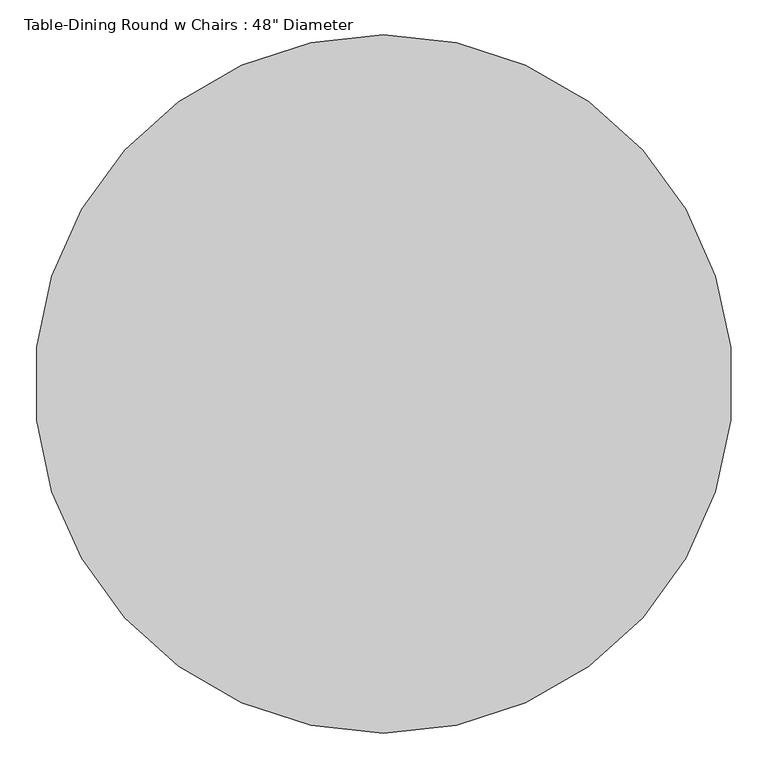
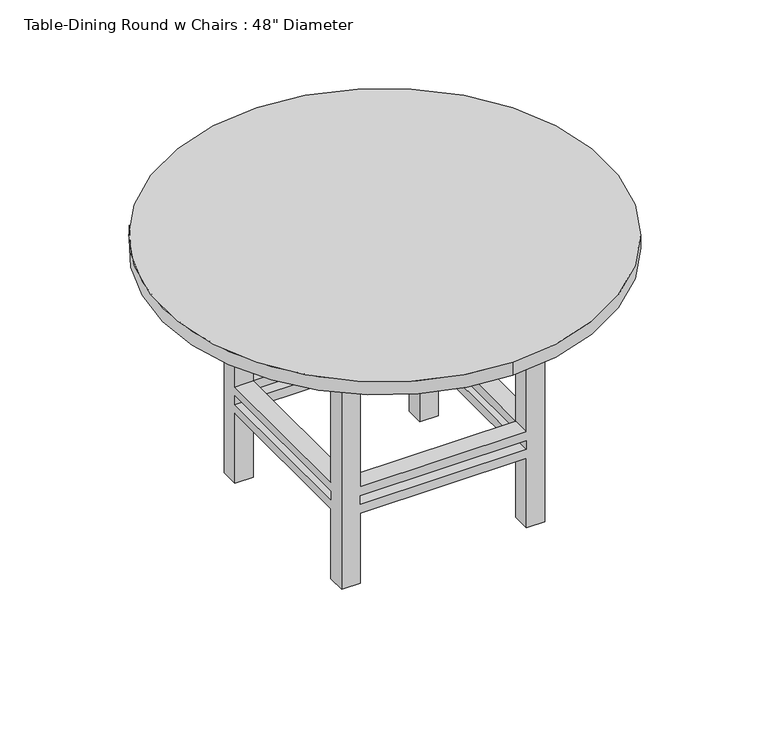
"""IFC4 building model written with IfcOpenShell, lengths in millimetres: furniture geometry."""

import ifcopenshell
import ifcopenshell.guid

model = None  # the IFC model being written
_history = None  # IfcOwnerHistory: only IFC2X3 demands one
_inside = {}  # id of a spatial element -> (the spatial element, [elements in it])
_under = {}  # id of a project, library or spatial element -> (it, [spatial elements below it])
_declared = {}  # id of a project -> (the project, [libraries it declares])
_typed = {}  # id of a type object -> (the type object, [elements of that type])
_made_of = {}  # id of a material, layer set ... -> (it, [elements and type objects made of it])


def new_model(schema):
    """Start an empty IFC model of exactly this schema.

    Asked for "IFC4X3", IfcOpenShell would pick the latest addendum, in which some entities
    have other attributes; the version numbers below select the first issue.
    IFC2X3 requires an IfcOwnerHistory on every rooted entity: one is made here for all.
    """
    global model, _history
    if schema == "IFC4X3":
        model = ifcopenshell.file(schema_version=(4, 3, 0, 0))
    else:
        model = ifcopenshell.file(schema=schema)
    _inside.clear()
    _under.clear()
    _declared.clear()
    _typed.clear()
    _made_of.clear()
    _history = None
    if model.schema == "IFC2X3":
        org = make("IfcOrganization", Name="unknown")
        user = make(
            "IfcPersonAndOrganization",
            ThePerson=make("IfcPerson", FamilyName="unknown"),
            TheOrganization=org,
        )
        app = make(
            "IfcApplication",
            ApplicationDeveloper=org,
            Version="unknown",
            ApplicationFullName="unknown",
            ApplicationIdentifier="unknown",
        )
        _history = make(
            "IfcOwnerHistory",
            OwningUser=user,
            OwningApplication=app,
            ChangeAction="ADDED",
            CreationDate=0,
        )
    return model


def make(cls, **values):
    """One entity of the class cls with the attributes given. An attribute that is None is left unset."""
    return model.create_entity(
        cls, **{name: value for name, value in values.items() if value is not None}
    )


def rooted(cls, **values):
    """An entity with a GlobalId (a new one), such as an element, a storey or a relation."""
    return make(cls, GlobalId=ifcopenshell.guid.new(), OwnerHistory=_history, **values)


def si_unit(unit_type, name, prefix=None):
    """IfcSIUnit, for example si_unit("LENGTHUNIT", "METRE", prefix="MILLI")."""
    return make("IfcSIUnit", UnitType=unit_type, Prefix=prefix, Name=name)


def assignment(units):
    """IfcUnitAssignment: the units of a project."""
    return None if units is None else make("IfcUnitAssignment", Units=units)


def point(xyz):
    """IfcCartesianPoint."""
    return None if xyz is None else make("IfcCartesianPoint", Coordinates=xyz)


def direction(xyz):
    """IfcDirection."""
    return None if xyz is None else make("IfcDirection", DirectionRatios=xyz)


def frame(location, z_axis=None, x_axis=None):
    """IfcAxis2Placement3D, a coordinate frame: its origin and axes. An axis left out is left unset."""
    return make(
        "IfcAxis2Placement3D",
        Location=point(location),
        Axis=direction(z_axis),
        RefDirection=direction(x_axis),
    )


def frame_2d(location, x_axis=None):
    """IfcAxis2Placement2D, a coordinate frame in the plane: its origin and x axis."""
    return make(
        "IfcAxis2Placement2D", Location=point(location), RefDirection=direction(x_axis)
    )


def origin():
    """The frame at (0, 0, 0) with its axes left unset."""
    return frame((0.0, 0.0, 0.0))


def place(relative_to, where):
    """IfcLocalPlacement: puts the frame where relative to a parent placement (None: the world)."""
    return make(
        "IfcLocalPlacement", PlacementRelTo=relative_to, RelativePlacement=where
    )


def context(
    kind, dimensions, precision=None, world=None, true_north=None, identifier=None
):
    """IfcGeometricRepresentationContext, for example the 3D "Model" context."""
    return make(
        "IfcGeometricRepresentationContext",
        ContextIdentifier=identifier,
        ContextType=kind,
        CoordinateSpaceDimension=dimensions,
        Precision=precision,
        WorldCoordinateSystem=world,
        TrueNorth=true_north,
    )


def project(units=None, contexts=None):
    """IfcProject with its units and contexts."""
    return rooted(
        "IfcProject",
        Name="project",
        RepresentationContexts=contexts,
        UnitsInContext=assignment(units),
    )


def spatial(cls, under=None, at=None, **own):
    """A site, building, storey or space (cls), placed at a placement, below another one or the project."""
    s = rooted(cls, ObjectPlacement=at, **own)
    if under is not None:
        _under.setdefault(under.id(), (under, []))[1].append(s)
    return s


def polyline(points):
    """IfcPolyline through the points."""
    return make("IfcPolyline", Points=[point(p) for p in points])


def circle_curve(where, radius):
    """IfcCircle in the frame where."""
    return make("IfcCircle", Position=where, Radius=radius)


def trimmed(basis, trim1, trim2, sense, master):
    """IfcTrimmedCurve: the piece of a basis curve between two trims."""
    return make(
        "IfcTrimmedCurve",
        BasisCurve=basis,
        Trim1=trim1,
        Trim2=trim2,
        SenseAgreement=sense,
        MasterRepresentation=master,
    )


def segment(curve, same_sense, transition):
    """IfcCompositeCurveSegment."""
    return make(
        "IfcCompositeCurveSegment",
        Transition=transition,
        SameSense=same_sense,
        ParentCurve=curve,
    )


def composite_curve(segments, self_intersect=None):
    """IfcCompositeCurve: segments joined end to end."""
    return make("IfcCompositeCurve", Segments=segments, SelfIntersect=self_intersect)


def outline(outer, holes=None, kind="AREA"):
    """IfcArbitraryClosedProfileDef: a profile drawn as a closed curve; with holes, ...WithVoids."""
    if holes is None:
        return make("IfcArbitraryClosedProfileDef", ProfileType=kind, OuterCurve=outer)
    return make(
        "IfcArbitraryProfileDefWithVoids",
        ProfileType=kind,
        OuterCurve=outer,
        InnerCurves=holes,
    )


def extrude(swept, where, along, depth):
    """IfcExtrudedAreaSolid: the profile swept, set in the frame where, extruded along a direction by depth."""
    return make(
        "IfcExtrudedAreaSolid",
        SweptArea=swept,
        Position=where,
        ExtrudedDirection=direction(along),
        Depth=depth,
    )


def faces_of(points, faces, orient=None, outer=None):
    """IfcFace entities. A face is a list of loops; a loop is a list of indices into points, from 0.

    orient and outer hold one flag for each loop. By default every Orientation is true, the
    first loop of a face is its IfcFaceOuterBound and the others are IfcFaceBound.
    """
    made = []
    for i, loops in enumerate(faces):
        bounds = []
        for j, loop in enumerate(loops):
            is_outer = j == 0 if outer is None else outer[i][j]
            bounds.append(
                make(
                    "IfcFaceOuterBound" if is_outer else "IfcFaceBound",
                    Bound=make("IfcPolyLoop", Polygon=[points[k] for k in loop]),
                    Orientation=True if orient is None else orient[i][j],
                )
            )
        made.append(make("IfcFace", Bounds=bounds))
    return made


def faceted_brep(points, faces, orient=None, outer=None, voids=None):
    """IfcFacetedBrep: a solid bounded by flat faces; with voids (closed shells), ...WithVoids."""
    shared = [point(p) for p in points]
    hull = make("IfcClosedShell", CfsFaces=faces_of(shared, faces, orient, outer))
    if voids is None:
        return make("IfcFacetedBrep", Outer=hull)
    return make(
        "IfcFacetedBrepWithVoids",
        Outer=hull,
        Voids=[
            make(cls, CfsFaces=faces_of(shared, fs, o, b)) for cls, fs, o, b in voids
        ],
    )


def shape(context_of_items, identifier, shape_type, items):
    """IfcShapeRepresentation: the items that make up one representation, for example the "Body"."""
    return make(
        "IfcShapeRepresentation",
        ContextOfItems=context_of_items,
        RepresentationIdentifier=identifier,
        RepresentationType=shape_type,
        Items=items,
    )


def source(mapping_origin, context_of_items, identifier, shape_type, items):
    """IfcRepresentationMap: a shape defined once, which mapped items show again and again."""
    return make(
        "IfcRepresentationMap",
        MappingOrigin=mapping_origin,
        MappedRepresentation=shape(context_of_items, identifier, shape_type, items),
    )


def transform(
    local_origin,
    x_axis=None,
    y_axis=None,
    z_axis=None,
    scale=None,
    scale2=None,
    scale3=None,
    uniform=True,
):
    """IfcCartesianTransformationOperator3D, or its non-uniform kind. x_axis, y_axis, z_axis: its Axis1, 2, 3."""
    if uniform:
        return make(
            "IfcCartesianTransformationOperator3D",
            Axis1=direction(x_axis),
            Axis2=direction(y_axis),
            LocalOrigin=point(local_origin),
            Scale=scale,
            Axis3=direction(z_axis),
        )
    return make(
        "IfcCartesianTransformationOperator3DnonUniform",
        Axis1=direction(x_axis),
        Axis2=direction(y_axis),
        LocalOrigin=point(local_origin),
        Scale=scale,
        Axis3=direction(z_axis),
        Scale2=scale2,
        Scale3=scale3,
    )


def mapped(mapping_source, mapping_target):
    """IfcMappedItem: shows the shape of a source again, moved by a transform."""
    return make(
        "IfcMappedItem", MappingSource=mapping_source, MappingTarget=mapping_target
    )


def made_of(thing, what):
    """Note that an element or type object is made of a material, layer set ...; save() writes the relation."""
    if what is not None:
        _made_of.setdefault(what.id(), (what, []))[1].append(thing)
    return thing


def element(
    cls,
    number,
    at=None,
    inside=None,
    cuts=None,
    type_object=None,
    material=None,
    context=None,
    identifier="Body",
    shape_type=None,
    held_by="IfcProductDefinitionShape",
    body=None,
    shapes=None,
    **own,
):
    """One element of the class cls, such as IfcWall. Its Tag is "e" and its number.

    at: its placement. inside: the storey or other place that contains it. cuts: it is an
    opening in that element (IfcRelVoidsElement). A single representation is given by context,
    identifier, shape_type and body (its items); several are given by shapes. held_by: the class
    of the entity that holds the representations. save() writes the other relations.
    """
    e = rooted(cls, Tag="e%d" % number, ObjectPlacement=at, **own)
    if body is not None:
        shapes = [shape(context, identifier, shape_type, body)]
    if shapes is not None:
        e.Representation = make(held_by, Representations=shapes)
    if inside is not None:
        _inside.setdefault(inside.id(), (inside, []))[1].append(e)
    if cuts is not None:
        rooted(
            "IfcRelVoidsElement", RelatingBuildingElement=cuts, RelatedOpeningElement=e
        )
    if type_object is not None:
        _typed.setdefault(type_object.id(), (type_object, []))[1].append(e)
    return made_of(e, material)


def aggregate(whole, parts):
    """IfcRelAggregates: a whole, such as a stair, and the parts it consists of."""
    return rooted("IfcRelAggregates", RelatingObject=whole, RelatedObjects=parts)


def save(model, path):
    """Write the relations noted so far, then the file.

    IfcRelAggregates (storeys below a building ...), IfcRelContainedInSpatialStructure (elements
    in a storey), IfcRelDefinesByType, IfcRelAssociatesMaterial and IfcRelDeclares: one each for
    every whole, place, type object, material and project.
    """
    for whole, parts in _under.values():
        aggregate(whole, parts)
    for where, things in _inside.values():
        rooted(
            "IfcRelContainedInSpatialStructure",
            RelatedElements=things,
            RelatingStructure=where,
        )
    for kind, things in _typed.values():
        rooted("IfcRelDefinesByType", RelatedObjects=things, RelatingType=kind)
    for what, things in _made_of.values():
        rooted("IfcRelAssociatesMaterial", RelatedObjects=things, RelatingMaterial=what)
    for by, libraries in _declared.values():
        rooted("IfcRelDeclares", RelatingContext=by, RelatedDefinitions=libraries)
    model.write(path)


def furniture_7060ebe6(model_context):
    return source(origin(), model_context, "Body", "SolidModel", [
        faceted_brep([(332.2819672, 43.7213115, 279.4), (332.2819672, -413.4786885, 279.4), (383.0819672, -413.4786885, 279.4), (383.0819672, 43.7213115, 279.4), (-124.9180328, -413.4786885, 279.4), (-124.9180328, -464.2786885, 279.4), (332.2819672, -464.2786885, 279.4), (-124.9180328, 43.7213115, 279.4), (-175.7180328, 43.7213115, 279.4), (-175.7180328, -413.4786885, 279.4), (332.2819672, 94.5213115, 279.4), (-124.9180328, 94.5213115, 279.4), (332.2819672, 43.7213115, 254.0), (-124.9180328, 43.7213115, 254.0), (-124.9180328, 94.5213115, 254.0), (332.2819672, 94.5213115, 254.0), (-124.9180328, -413.4786885, 254.0), (-175.7180328, -413.4786885, 254.0), (-175.7180328, 43.7213115, 254.0), (332.2819672, -413.4786885, 254.0), (332.2819672, -464.2786885, 254.0), (-124.9180328, -464.2786885, 254.0), (383.0819672, 43.7213115, 254.0), (383.0819672, -413.4786885, 254.0), (-175.7180328, 94.5213115, 647.7), (-124.9180328, 94.5213115, 647.7), (332.2819672, 94.5213115, 647.7), (383.0819672, 94.5213115, 647.7), (383.0819672, 94.5213115, 0.0), (332.2819672, 94.5213115, 0.0), (332.2819672, 94.5213115, 203.2), (-124.9180328, 94.5213115, 203.2), (-124.9180328, 94.5213115, 0.0), (-175.7180328, 94.5213115, 0.0), (-124.9180328, 94.5213115, 228.6), (332.2819672, 94.5213115, 228.6), (-175.7180328, 43.7213115, 647.7), (-175.7180328, 43.7213115, 0.0), (-175.7180328, 43.7213115, 203.2), (-175.7180328, -413.4786885, 203.2), (-175.7180328, -413.4786885, 0.0), (-175.7180328, -464.2786885, 0.0), (-175.7180328, -464.2786885, 647.7), (-175.7180328, -413.4786885, 647.7), (-175.7180328, -413.4786885, 228.6), (-175.7180328, 43.7213115, 228.6), (383.0819672, -464.2786885, 647.7), (332.2819672, -464.2786885, 647.7), (-124.9180328, -464.2786885, 647.7), (-124.9180328, -464.2786885, 0.0), (-124.9180328, -464.2786885, 203.2), (332.2819672, -464.2786885, 203.2), (332.2819672, -464.2786885, 0.0), (383.0819672, -464.2786885, 0.0), (332.2819672, -464.2786885, 228.6), (-124.9180328, -464.2786885, 228.6), (383.0819672, 43.7213115, 647.7), (383.0819672, -413.4786885, 647.7), (383.0819672, -413.4786885, 0.0), (383.0819672, -413.4786885, 203.2), (383.0819672, 43.7213115, 203.2), (383.0819672, 43.7213115, 0.0), (383.0819672, 43.7213115, 228.6), (383.0819672, -413.4786885, 228.6), (-124.9180328, 43.7213115, 647.7), (332.2819672, -413.4786885, 647.7), (332.2819672, 43.7213115, 647.7), (-124.9180328, -413.4786885, 647.7), (332.2819672, 43.7213115, 0.0), (-124.9180328, -413.4786885, 0.0), (-124.9180328, 43.7213115, 0.0), (332.2819672, -413.4786885, 0.0), (-124.9180328, 43.7213115, 228.6), (-124.9180328, 43.7213115, 203.2), (332.2819672, 43.7213115, 228.6), (332.2819672, 43.7213115, 203.2), (332.2819672, -413.4786885, 228.6), (332.2819672, -413.4786885, 203.2), (-124.9180328, -413.4786885, 228.6), (-124.9180328, -413.4786885, 203.2)], [[[0, 1, 2, 3]], [[1, 4, 5, 6]], [[4, 7, 8, 9]], [[7, 0, 10, 11]], [[12, 13, 14, 15]], [[13, 16, 17, 18]], [[16, 19, 20, 21]], [[19, 12, 22, 23]], [[24, 25, 11, 10, 26, 27, 28, 29, 30, 31, 32, 33], [14, 34, 35, 15]], [[36, 24, 33, 37, 38, 39, 40, 41, 42, 43, 9, 8], [17, 44, 45, 18]], [[46, 47, 6, 5, 48, 42, 41, 49, 50, 51, 52, 53], [20, 54, 55, 21]], [[28, 27, 56, 3, 2, 57, 46, 53, 58, 59, 60, 61], [22, 62, 63, 23]], [[1, 0, 12, 19]], [[4, 1, 19, 16]], [[7, 4, 16, 13]], [[0, 7, 13, 12]], [[25, 24, 36, 64]], [[47, 46, 57, 65]], [[26, 66, 56, 27]], [[48, 67, 43, 42]], [[29, 28, 61, 68]], [[49, 41, 40, 69]], [[32, 70, 37, 33]], [[52, 71, 58, 53]], [[13, 18, 45, 72]], [[64, 36, 8, 7]], [[37, 70, 73, 38]], [[14, 13, 72, 34]], [[25, 64, 7, 11]], [[70, 32, 31, 73]], [[12, 15, 35, 74]], [[66, 26, 10, 0]], [[29, 68, 75, 30]], [[22, 12, 74, 62]], [[56, 66, 0, 3]], [[68, 61, 60, 75]], [[19, 23, 63, 76]], [[65, 57, 2, 1]], [[58, 71, 77, 59]], [[20, 19, 76, 54]], [[47, 65, 1, 6]], [[71, 52, 51, 77]], [[16, 21, 55, 78]], [[67, 48, 5, 4]], [[49, 69, 79, 50]], [[17, 16, 78, 44]], [[43, 67, 4, 9]], [[69, 40, 39, 79]], [[74, 76, 63, 62]], [[76, 78, 55, 54]], [[78, 72, 45, 44]], [[72, 74, 35, 34]], [[75, 73, 31, 30]], [[73, 79, 39, 38]], [[79, 77, 51, 50]], [[77, 75, 60, 59]], [[76, 74, 75, 77]], [[78, 76, 77, 79]], [[72, 78, 79, 73]], [[74, 72, 73, 75]]]),
        extrude(outline(polyline([(408.4819672, 119.9213115), (408.4819672, -489.6786885), (-201.1180328, -489.6786885), (-201.1180328, 119.9213115), (408.4819672, 119.9213115)]), holes=[polyline([(383.0819672, 94.5213115), (-175.7180328, 94.5213115), (-175.7180328, -464.2786885), (383.0819672, -464.2786885), (383.0819672, 94.5213115)])]), frame((0.0, 0.0, 647.7), z_axis=(0.0, 0.0, 1.0), x_axis=(1.0, 0.0, 0.0)), (0.0, 0.0, 1.0), 76.2),
        extrude(outline(composite_curve([segment(trimmed(circle_curve(frame_2d((103.6819672, -184.8786885)), 609.6), [point((103.6819672, -794.4786885))], [point((103.6819672, 424.7213115))], False, "CARTESIAN"), True, "CONTINUOUS"), segment(trimmed(circle_curve(frame_2d((103.6819672, -184.8786885)), 609.6), [point((103.6819672, 424.7213115))], [point((103.6819672, -794.4786885))], False, "CARTESIAN"), True, "CONTINUOUS")], self_intersect=False)), frame((0.0, 0.0, 723.9), z_axis=(0.0, 0.0, 1.0), x_axis=(1.0, 0.0, 0.0)), (0.0, 0.0, 1.0), 38.1),
    ])


if __name__ == "__main__":
    model = new_model("IFC4")
    model_context = context("Model", 3, world=origin())
    ifc_project = project(units=[si_unit("LENGTHUNIT", "METRE", prefix="MILLI")], contexts=[model_context])
    site = spatial("IfcSite", under=ifc_project)
    building = spatial("IfcBuilding", under=site)
    placement = place(None, origin())
    furniture_shape = furniture_7060ebe6(model_context)
    element("IfcFurniture", 1, ObjectType="Table-Dining Round w Chairs : 48\" Diameter", at=placement, inside=building, context=model_context, shape_type="MappedRepresentation", body=[
        mapped(furniture_shape, transform((0.0, 0.0, 0.0), x_axis=(1.0, 0.0, 0.0), y_axis=(0.0, 1.0, 0.0), z_axis=(0.0, 0.0, 1.0))),
    ])
    save(model, "model.ifc")
